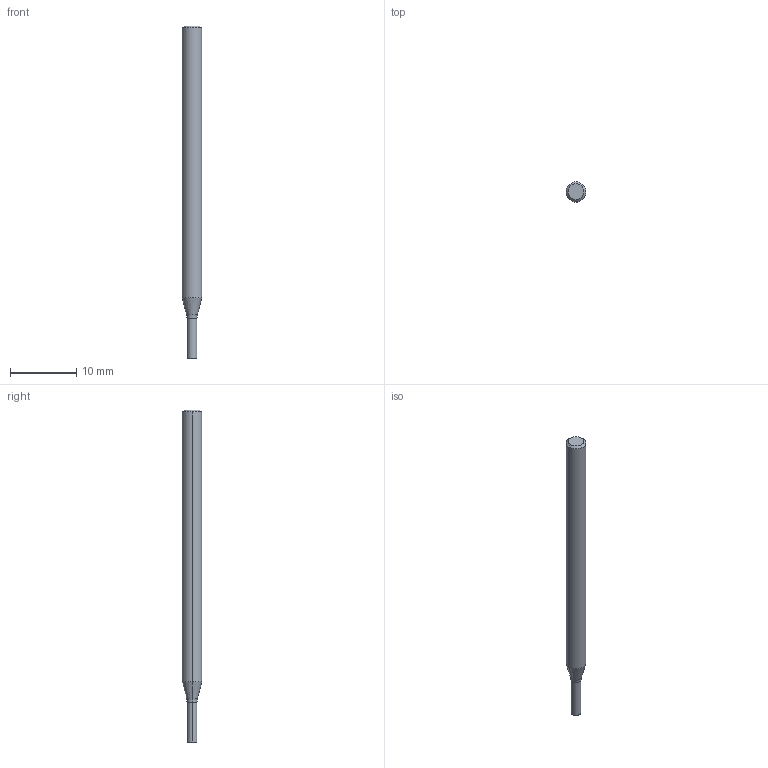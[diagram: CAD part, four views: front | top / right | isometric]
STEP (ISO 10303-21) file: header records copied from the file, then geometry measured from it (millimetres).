
FILE_DESCRIPTION (( 'STEP AP214' ), '1' );
FILE_NAME ('2.402.015.00_3D-model.step', '2022-02-15T18:27:13', ( '' ), ( '' ), 'SwSTEP 2.0', 'SolidWorks 2020', '' );
FILE_SCHEMA (( 'AUTOMOTIVE_DESIGN' ));
Length unit declared in the file: millimetre
Products named in the file (3): NOCUT-3D^Baugr37; 2.402.015.00_3D-model; CUT-3D^Baugr37
Assembly tree (2 placements, depth 2):
  2.402.015.00_3D-model
    CUT-3D^Baugr37
    NOCUT-3D^Baugr37
Bounding box: 3 x 3 x 50 mm (x, y, z)
Volume: 311.6 mm3; surface area: 446.4 mm2
Topology: 2 solids, 2 shells, 14 faces, 24 edges, 14 vertices
Faces by surface type: cylinder 4, plane 4, cone 4, torus 2
Entity records: 458 total; most frequent: DIRECTION 84, CARTESIAN_POINT 60, ORIENTED_EDGE 48, AXIS2_PLACEMENT_3D 38, EDGE_CURVE 24, CIRCLE 16, VERTEX_POINT 14, EDGE_LOOP 14
